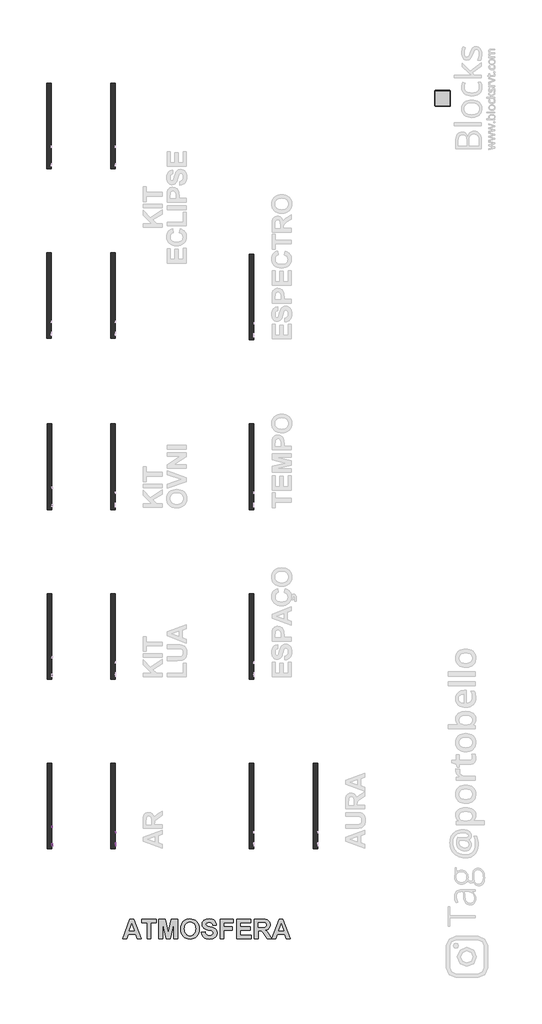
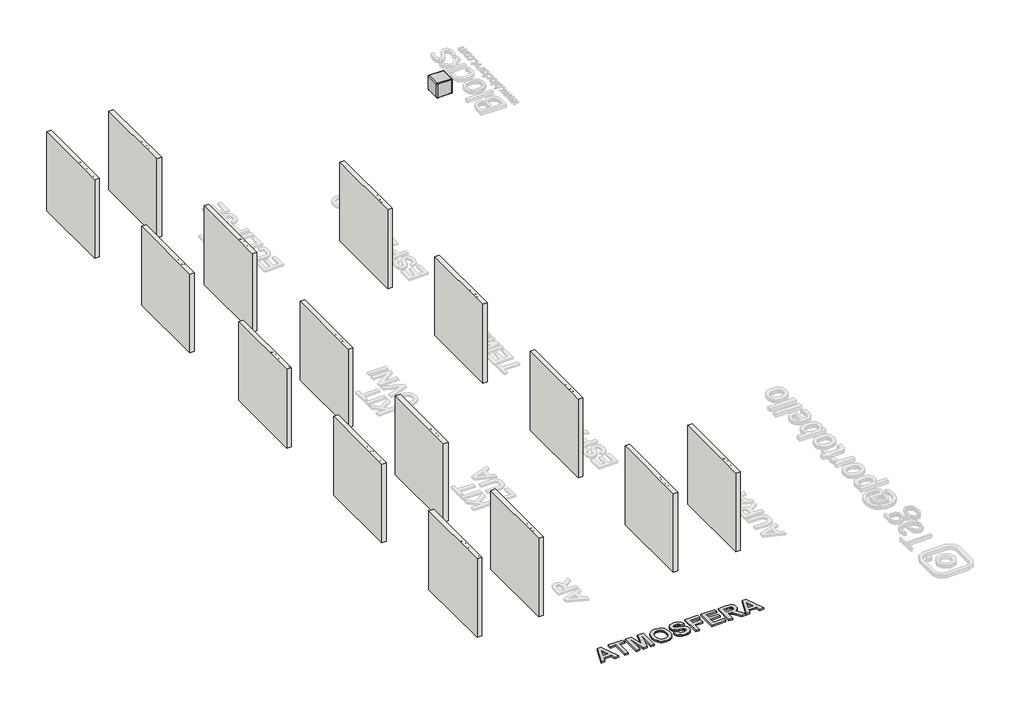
# One storey, part 1 of 9: 15 walls, 5 proxies, 1 furniture element.
"""IFC4 building model written with IfcOpenShell, lengths in millimetres."""

from ifc_helpers import new_model, si_unit, frame, origin, origin_with_axes, place, context, project, spatial, polyline, outline, extrude, transform, mapped, element, save
from components import branco_22256ad2

model = new_model("IFC4")

# Units and contexts
model_context = context("Model", 3, world=origin())
ifc_project = project(units=[si_unit("LENGTHUNIT", "METRE", prefix="MILLI")], contexts=[model_context])

# Site, building, storey
site = spatial("IfcSite", under=ifc_project)
building = spatial("IfcBuilding", under=site)
storey = spatial("IfcBuildingStorey", under=building, Name="PORTOBELLO - SHOWROOM", Elevation=0.0)

# Proxies
placement = place(None, origin())
element("IfcBuildingElementProxy", 1, Name="10mm Arial", ObjectType="10mm Arial", at=placement, inside=storey, context=model_context, shape_type="SweptSolid", body=[
    extrude(outline(polyline([(-9719.4773417, 2587.7332486), (-9719.4773417, 2600.2902873), (-9678.6669657, 2600.2902873), (-9678.6669657, 2562.7417984), (-9698.8146363, 2550.8959981), (-9720.1150038, 2546.9228726), (-9734.2018186, 2548.5016995), (-9746.9336013, 2553.2381802), (-9757.5102086, 2560.9667677), (-9765.1314973, 2571.5219153), (-9769.7392193, 2584.1831873), (-9771.2751266, 2598.2301482), (-9769.7453507, 2612.3782766), (-9765.1560228, 2625.5392549), (-9757.6972153, 2636.5787805), (-9747.5590007, 2644.3625504), (-9735.2104284, 2648.9794694), (-9721.120548, 2650.5184424), (-9701.4756494, 2646.9499871), (-9687.7046001, 2637.0171732), (-9680.1139682, 2620.4011697), (-9691.6899883, 2617.1392827), (-9697.4166847, 2628.752091), (-9707.2023458, 2635.4475433), (-9721.3167517, 2637.9614036), (-9737.3931949, 2635.2513396), (-9748.3315529, 2628.1389544), (-9754.7940132, 2618.4636579), (-9758.7180879, 2598.745183), (-9753.9969356, 2576.8562043), (-9740.2626744, 2563.7596052), (-9721.120548, 2559.4799113), (-9703.9404588, 2562.7050102), (-9691.2240045, 2569.5844035), (-9691.2240045, 2587.7332486), (-9719.4773417, 2587.7332486)])), frame((121459.5859035, 0.0, 0.0), z_axis=(1.0, 0.0, 0.0), x_axis=(0.0, 1.0, 0.0)), (0.0, 0.0, 1.0), 20.0),
    extrude(outline(polyline([(-9659.8314076, 2548.4925024), (-9659.8314076, 2622.2651052), (-9648.8439986, 2622.2651052), (-9648.8439986, 2611.3512727), (-9641.0449003, 2621.4067139), (-9633.1967511, 2623.834735), (-9620.5906614, 2619.9597114), (-9624.7845161, 2608.7025223), (-9633.613684, 2611.2776963), (-9640.7138065, 2608.8006242), (-9645.2387551, 2601.9334936), (-9647.2743688, 2587.2672647), (-9647.2743688, 2548.4925024), (-9659.8314076, 2548.4925024)])), frame((121459.5859035, 0.0, 0.0), z_axis=(1.0, 0.0, 0.0), x_axis=(0.0, 1.0, 0.0)), (0.0, 0.0, 1.0), 20.0),
    extrude(outline(polyline([(-9565.6536168, 2557.9102815), (-9577.8305108, 2549.3999447), (-9591.2827291, 2546.9228726), (-9601.776563, 2548.4127947), (-9609.5174133, 2552.8825609), (-9614.2906822, 2559.6699837), (-9615.8817719, 2568.1128755), (-9613.4782762, 2578.0456894), (-9607.1629686, 2585.2561765), (-9598.3705889, 2589.3764548), (-9587.5058073, 2591.2649157), (-9565.7271932, 2595.5813978), (-9565.6536168, 2598.377301), (-9569.1117075, 2607.6479272), (-9582.9931215, 2611.2776963), (-9595.6973131, 2608.8619378), (-9601.7551033, 2600.2902873), (-9614.312142, 2601.8599172), (-9608.8797512, 2614.1226504), (-9597.9413932, 2621.308612), (-9581.3744407, 2623.834735), (-9566.1563889, 2621.6029176), (-9557.5602129, 2615.9988485), (-9553.7097147, 2607.476249), (-9553.096578, 2596.4888401), (-9553.096578, 2580.866118), (-9552.4589159, 2559.0507157), (-9549.9573183, 2548.4925024), (-9562.5143571, 2548.4925024), (-9565.6536168, 2557.9102815)]), holes=[polyline([(-9565.6536168, 2583.024359), (-9585.911652, 2579.1738608), (-9596.7151199, 2577.1382471), (-9601.6079505, 2573.8273092), (-9603.3247331, 2568.9957923), (-9599.5845995, 2562.2022381), (-9588.6094533, 2559.4799113), (-9575.9052617, 2562.484281), (-9567.713756, 2569.7560817), (-9565.7271932, 2579.4681664), (-9565.6536168, 2583.024359)])]), frame((121459.5859035, 0.0, 0.0), z_axis=(1.0, 0.0, 0.0), x_axis=(0.0, 1.0, 0.0)), (0.0, 0.0, 1.0), 20.0),
    extrude(outline(polyline([(-9535.8306497, 2520.2391652), (-9535.8306497, 2622.2651052), (-9523.2736109, 2622.2651052), (-9523.2736109, 2609.9533211), (-9514.5915959, 2620.3643815), (-9502.8684229, 2623.834735), (-9486.9513953, 2618.9786927), (-9476.5525976, 2605.2934825), (-9473.0454559, 2585.9428895), (-9477.0063187, 2565.5990152), (-9488.5087624, 2551.7421267), (-9504.3890019, 2546.9228726), (-9515.3150971, 2550.1479714), (-9523.2736109, 2558.302689), (-9523.2736109, 2520.2391652), (-9535.8306497, 2520.2391652)]), holes=[polyline([(-9523.2736109, 2584.7901926), (-9521.9155132, 2573.5330036), (-9517.8412202, 2565.6603289), (-9511.8294152, 2561.0250157), (-9504.658782, 2559.4799113), (-9497.3716528, 2561.080198), (-9491.2065637, 2565.8810581), (-9487.0035119, 2574.041907), (-9485.6024946, 2585.7221603), (-9486.9697894, 2596.9180357), (-9491.0716736, 2604.901075), (-9497.0742815, 2609.683541), (-9504.1437472, 2611.2776963), (-9511.240804, 2609.5823734), (-9517.4733382, 2604.4964048), (-9521.8235427, 2596.179206), (-9523.2736109, 2584.7901926)])]), frame((121459.5859035, 0.0, 0.0), z_axis=(1.0, 0.0, 0.0), x_axis=(0.0, 1.0, 0.0)), (0.0, 0.0, 1.0), 20.0),
    extrude(outline(polyline([(-9458.9187873, 2548.4925024), (-9458.9187873, 2648.9488126), (-9446.3617485, 2648.9488126), (-9446.3617485, 2612.0134603), (-9436.5699561, 2620.8794163), (-9424.509558, 2623.834735), (-9410.4074148, 2620.6096362), (-9401.8480271, 2611.6946292), (-9399.2728531, 2595.1889903), (-9399.2728531, 2548.4925024), (-9411.8298919, 2548.4925024), (-9411.8298919, 2593.8891406), (-9415.8275429, 2607.1328925), (-9427.1583083, 2611.2776963), (-9437.4467415, 2608.4817931), (-9444.313872, 2600.903424), (-9446.3617485, 2587.6841976), (-9446.3617485, 2548.4925024), (-9458.9187873, 2548.4925024)])), frame((121459.5859035, 0.0, 0.0), z_axis=(1.0, 0.0, 0.0), x_axis=(0.0, 1.0, 0.0)), (0.0, 0.0, 1.0), 20.0),
    extrude(outline(polyline([(121479.5859035, -9369.449886), (121479.5859035, -9382.0069248), (121459.5859035, -9382.0069248), (121459.5859035, -9369.449886), (121479.5859035, -9369.449886)])), frame((0.0, 0.0, 2636.3917738), z_axis=(0.0, 0.0, 1.0), x_axis=(1.0, 0.0, 0.0)), (0.0, 0.0, 1.0), 12.5570388),
    extrude(outline(polyline([(121479.5859035, -9369.449886), (121479.5859035, -9382.0069248), (121459.5859035, -9382.0069248), (121459.5859035, -9369.449886), (121479.5859035, -9369.449886)])), frame((0.0, 0.0, 2548.4925024), z_axis=(0.0, 0.0, 1.0), x_axis=(1.0, 0.0, 0.0)), (0.0, 0.0, 1.0), 73.7726028),
    extrude(outline(polyline([(-9323.9306205, 2558.9648766), (-9322.3609906, 2548.1246204), (-9331.7542443, 2546.9228726), (-9342.2756693, 2549.0075372), (-9347.5241191, 2554.4767162), (-9349.044698, 2568.7260122), (-9349.044698, 2609.7080664), (-9358.4624771, 2609.7080664), (-9358.4624771, 2622.2651052), (-9349.044698, 2622.2651052), (-9349.044698, 2640.1932211), (-9336.4876593, 2647.5753865), (-9336.4876593, 2622.2651052), (-9323.9306205, 2622.2651052), (-9323.9306205, 2609.7080664), (-9336.4876593, 2609.7080664), (-9336.4876593, 2569.0938942), (-9335.8254717, 2562.619171), (-9333.6794934, 2560.3260399), (-9329.3997995, 2559.4799113), (-9323.9306205, 2558.9648766)])), frame((121459.5859035, 0.0, 0.0), z_axis=(1.0, 0.0, 0.0), x_axis=(0.0, 1.0, 0.0)), (0.0, 0.0, 1.0), 20.0),
    extrude(outline(polyline([(-9259.7229496, 2570.4673203), (-9247.4111655, 2568.8976904), (-9251.8472092, 2559.6209328), (-9258.9258719, 2552.6863572), (-9268.4877381, 2548.3637437), (-9280.3733923, 2546.9228726), (-9295.1070662, 2549.4091417), (-9306.443963, 2556.8679492), (-9313.6728442, 2568.814917), (-9316.0824713, 2584.7656671), (-9313.6483187, 2601.2529119), (-9306.3458611, 2613.5830901), (-9295.1622485, 2621.2718238), (-9281.0846308, 2623.834735), (-9267.4454058, 2621.2779552), (-9256.5469017, 2613.6076156), (-9249.400794, 2601.3019628), (-9247.018758, 2584.8392435), (-9247.0923344, 2581.4547292), (-9303.5254325, 2581.4547292), (-9301.351863, 2572.0553442), (-9296.3026827, 2565.1452941), (-9289.0155535, 2560.896257), (-9280.1281376, 2559.4799113), (-9267.8163535, 2562.1041362), (-9259.7229496, 2570.4673203)]), holes=[polyline([(-9303.5254325, 2594.011768), (-9259.5757968, 2594.011768), (-9264.6035174, 2605.3915843), (-9271.9243691, 2609.8061683), (-9281.1336817, 2611.2776963), (-9296.5969883, 2606.5810695), (-9301.4622276, 2601.0904307), (-9303.5254325, 2594.011768)])]), frame((121459.5859035, 0.0, 0.0), z_axis=(1.0, 0.0, 0.0), x_axis=(0.0, 1.0, 0.0)), (0.0, 0.0, 1.0), 20.0),
])
element("IfcBuildingElementProxy", 2, Name="10mm Arial", ObjectType="10mm Arial", at=placement, inside=storey, context=model_context, shape_type="SweptSolid", body=[
    extrude(outline(polyline([(-9748.5890703, 2548.4925024), (-9775.9840162, 2648.9488126), (-9763.0345699, 2648.9488126), (-9747.1420677, 2582.9262572), (-9742.2369745, 2562.5455946), (-9736.9885247, 2580.5718124), (-9717.073846, 2648.9488126), (-9698.4099661, 2648.9488126), (-9683.939941, 2599.3828451), (-9673.1732612, 2562.5455946), (-9668.4153208, 2582.337646), (-9652.3756658, 2648.9488126), (-9639.4262196, 2648.9488126), (-9666.8456909, 2548.4925024), (-9680.261121, 2548.4925024), (-9704.345129, 2625.9929761), (-9707.7051179, 2636.8087067), (-9711.4820397, 2623.7856841), (-9733.4323321, 2548.4925024), (-9748.5890703, 2548.4925024)])), frame((123459.5859035, 0.0, 0.0), z_axis=(1.0, 0.0, 0.0), x_axis=(0.0, 1.0, 0.0)), (0.0, 0.0, 1.0), 20.0),
    extrude(outline(polyline([(-9628.4388106, 2548.4925024), (-9628.4388106, 2648.9488126), (-9615.8817719, 2648.9488126), (-9615.8817719, 2612.0134603), (-9606.0899794, 2620.8794163), (-9594.0295814, 2623.834735), (-9579.9274382, 2620.6096362), (-9571.3680505, 2611.6946292), (-9568.7928765, 2595.1889903), (-9568.7928765, 2548.4925024), (-9581.3499153, 2548.4925024), (-9581.3499153, 2593.8891406), (-9585.3475663, 2607.1328925), (-9596.6783317, 2611.2776963), (-9606.9667649, 2608.4817931), (-9613.8338954, 2600.903424), (-9615.8817719, 2587.6841976), (-9615.8817719, 2548.4925024), (-9628.4388106, 2548.4925024)])), frame((123459.5859035, 0.0, 0.0), z_axis=(1.0, 0.0, 0.0), x_axis=(0.0, 1.0, 0.0)), (0.0, 0.0, 1.0), 20.0),
    extrude(outline(polyline([(123479.5859035, -9538.9699094), (123479.5859035, -9551.5269482), (123459.5859035, -9551.5269482), (123459.5859035, -9538.9699094), (123479.5859035, -9538.9699094)])), frame((0.0, 0.0, 2636.3917738), z_axis=(0.0, 0.0, 1.0), x_axis=(1.0, 0.0, 0.0)), (0.0, 0.0, 1.0), 12.5570388),
    extrude(outline(polyline([(123479.5859035, -9538.9699094), (123479.5859035, -9551.5269482), (123459.5859035, -9551.5269482), (123459.5859035, -9538.9699094), (123479.5859035, -9538.9699094)])), frame((0.0, 0.0, 2548.4925024), z_axis=(0.0, 0.0, 1.0), x_axis=(1.0, 0.0, 0.0)), (0.0, 0.0, 1.0), 73.7726028),
    extrude(outline(polyline([(-9493.4506439, 2558.9648766), (-9491.881014, 2548.1246204), (-9501.2742676, 2546.9228726), (-9511.7956927, 2549.0075372), (-9517.0441425, 2554.4767162), (-9518.5647214, 2568.7260122), (-9518.5647214, 2609.7080664), (-9527.9825005, 2609.7080664), (-9527.9825005, 2622.2651052), (-9518.5647214, 2622.2651052), (-9518.5647214, 2640.1932211), (-9506.0076826, 2647.5753865), (-9506.0076826, 2622.2651052), (-9493.4506439, 2622.2651052), (-9493.4506439, 2609.7080664), (-9506.0076826, 2609.7080664), (-9506.0076826, 2569.0938942), (-9505.345495, 2562.619171), (-9503.1995167, 2560.3260399), (-9498.9198229, 2559.4799113), (-9493.4506439, 2558.9648766)])), frame((123459.5859035, 0.0, 0.0), z_axis=(1.0, 0.0, 0.0), x_axis=(0.0, 1.0, 0.0)), (0.0, 0.0, 1.0), 20.0),
    extrude(outline(polyline([(-9429.242973, 2570.4673203), (-9416.9311889, 2568.8976904), (-9421.3672326, 2559.6209328), (-9428.4458953, 2552.6863572), (-9438.0077615, 2548.3637437), (-9449.8934156, 2546.9228726), (-9464.6270895, 2549.4091417), (-9475.9639864, 2556.8679492), (-9483.1928676, 2568.814917), (-9485.6024946, 2584.7656671), (-9483.1683421, 2601.2529119), (-9475.8658845, 2613.5830901), (-9464.6822718, 2621.2718238), (-9450.6046542, 2623.834735), (-9436.9654292, 2621.2779552), (-9426.0669251, 2613.6076156), (-9418.9208173, 2601.3019628), (-9416.5387814, 2584.8392435), (-9416.6123578, 2581.4547292), (-9473.0454559, 2581.4547292), (-9470.8718864, 2572.0553442), (-9465.822706, 2565.1452941), (-9458.5355768, 2560.896257), (-9449.648161, 2559.4799113), (-9437.3363769, 2562.1041362), (-9429.242973, 2570.4673203)]), holes=[polyline([(-9473.0454559, 2594.011768), (-9429.0958202, 2594.011768), (-9434.1235408, 2605.3915843), (-9441.4443925, 2609.8061683), (-9450.6537051, 2611.2776963), (-9466.1170116, 2606.5810695), (-9470.982251, 2601.0904307), (-9473.0454559, 2594.011768)])]), frame((123459.5859035, 0.0, 0.0), z_axis=(1.0, 0.0, 0.0), x_axis=(0.0, 1.0, 0.0)), (0.0, 0.0, 1.0), 20.0),
])
element("IfcBuildingElementProxy", 3, Name="10mm Arial Narrow", ObjectType="10mm Arial Narrow", at=placement, inside=storey, context=model_context, shape_type="SweptSolid", body=[
    extrude(outline(polyline([(-9184.431178, 2548.4925024), (-9184.431178, 2649.2111062), (-9153.1342933, 2649.2111062), (-9136.8385918, 2647.3327854), (-9125.3656057, 2637.8523423), (-9121.0759272, 2620.8332334), (-9122.8622356, 2608.7574079), (-9128.2211608, 2599.1310141), (-9137.9649496, 2592.8297557), (-9152.9058489, 2590.7293363), (-9174.6842163, 2590.7293363), (-9174.6842163, 2548.4925024), (-9184.431178, 2548.4925024)]), holes=[polyline([(-9174.6842163, 2602.1007915), (-9151.7128614, 2602.1007915), (-9135.848666, 2606.6316057), (-9130.8228889, 2620.3001965), (-9133.2977034, 2630.4659729), (-9139.2753322, 2636.2659227), (-9151.9413058, 2637.8396509), (-9174.6842163, 2637.8396509), (-9174.6842163, 2602.1007915)])]), frame((121459.5859035, 0.0, 0.0), z_axis=(1.0, 0.0, 0.0), x_axis=(0.0, 1.0, 0.0)), (0.0, 0.0, 1.0), 20.0),
    extrude(outline(polyline([(-9112.9534592, 2585.0436086), (-9110.9989903, 2601.6343842), (-9105.1355837, 2613.586469), (-9096.277017, 2620.8110236), (-9085.3370678, 2623.2192084), (-9074.5240322, 2620.8110236), (-9065.6400828, 2613.586469), (-9059.7005281, 2601.8247545), (-9057.7206765, 2585.80509), (-9059.6656268, 2568.6432034), (-9065.5004779, 2556.5007483), (-9074.3495261, 2549.2761937), (-9085.3370678, 2546.8680088), (-9096.197696, 2549.2825394), (-9105.0721269, 2556.526131), (-9110.9831261, 2568.4845615), (-9112.9534592, 2585.0436086)]), holes=[polyline([(-9103.2064975, 2585.0689913), (-9101.9024607, 2572.5172399), (-9097.9903501, 2563.6459819), (-9092.1491533, 2558.3727233), (-9085.057858, 2556.6149705), (-9078.3377848, 2558.3885875), (-9072.6457115, 2563.7094386), (-9068.7621565, 2572.5965609), (-9067.4676381, 2585.0689913), (-9068.771675, 2597.5826687), (-9072.6837856, 2606.4412354), (-9078.5249823, 2611.7144939), (-9085.6162777, 2613.4722468), (-9092.3839434, 2611.7049754), (-9098.0664982, 2606.4031613), (-9101.9214977, 2597.5350761), (-9103.2064975, 2585.0689913)])]), frame((121459.5859035, 0.0, 0.0), z_axis=(1.0, 0.0, 0.0), x_axis=(0.0, 1.0, 0.0)), (0.0, 0.0, 1.0), 20.0),
    extrude(outline(polyline([(-8986.2429577, 2556.6149705), (-8984.6184641, 2546.8680088), (-8991.9794507, 2546.8680088), (-9000.2542151, 2548.9874653), (-9004.5692762, 2554.7874152), (-9005.736881, 2569.4332403), (-9005.736881, 2611.8477532), (-9013.859349, 2611.8477532), (-9013.859349, 2615.0967404), (-9015.4838426, 2610.2232596), (-9023.047891, 2611.8477532), (-9029.1270507, 2609.525235), (-9032.9979144, 2603.0399519), (-9034.9777659, 2587.6326453), (-9034.9777659, 2548.4925024), (-9044.7247276, 2548.4925024), (-9044.7247276, 2621.5947148), (-9034.9777659, 2621.5947148), (-9034.9777659, 2611.8985186), (-9028.7336186, 2620.9855297), (-9022.3371751, 2623.2192084), (-9013.859349, 2621.5947148), (-9005.736881, 2621.5947148), (-9005.736881, 2637.8396509), (-8995.9899193, 2645.962119), (-8995.9899193, 2621.5947148), (-8986.2429577, 2621.5947148), (-8986.2429577, 2611.8477532), (-8995.9899193, 2611.8477532), (-8995.9899193, 2567.1995616), (-8995.1269071, 2559.2040072), (-8990.5072534, 2556.6149705), (-8986.2429577, 2556.6149705)])), frame((121459.5859035, 0.0, 0.0), z_axis=(1.0, 0.0, 0.0), x_axis=(0.0, 1.0, 0.0)), (0.0, 0.0, 1.0), 20.0),
    extrude(outline(polyline([(-8979.7449832, 2585.0436086), (-8977.7905144, 2601.6343842), (-8971.9271078, 2613.586469), (-8963.068541, 2620.8110236), (-8952.1285919, 2623.2192084), (-8941.3155563, 2620.8110236), (-8932.4316069, 2613.586469), (-8926.4920521, 2601.8247545), (-8924.5122005, 2585.80509), (-8926.4571509, 2568.6432034), (-8932.292002, 2556.5007483), (-8941.1410502, 2549.2761937), (-8952.1285919, 2546.8680088), (-8962.9892201, 2549.2825394), (-8971.863651, 2556.526131), (-8977.7746502, 2568.4845615), (-8979.7449832, 2585.0436086)]), holes=[polyline([(-8969.9980216, 2585.0689913), (-8968.6939847, 2572.5172399), (-8964.7818741, 2563.6459819), (-8958.9406774, 2558.3727233), (-8951.8493821, 2556.6149705), (-8945.1293089, 2558.3885875), (-8939.4372356, 2563.7094386), (-8935.5536805, 2572.5965609), (-8934.2591622, 2585.0689913), (-8935.5631991, 2597.5826687), (-8939.4753096, 2606.4412354), (-8945.3165064, 2611.7144939), (-8952.4078017, 2613.4722468), (-8959.1754675, 2611.7049754), (-8964.8580223, 2606.4031613), (-8968.7130218, 2597.5350761), (-8969.9980216, 2585.0689913)])]), frame((121459.5859035, 0.0, 0.0), z_axis=(1.0, 0.0, 0.0), x_axis=(0.0, 1.0, 0.0)), (0.0, 0.0, 1.0), 20.0),
    extrude(outline(polyline([(-8901.76929, 2548.4925024), (-8911.5162517, 2548.4925024), (-8911.5162517, 2649.2111062), (-8901.76929, 2649.2111062), (-8901.76929, 2613.802222), (-8894.3702293, 2620.8839989), (-8885.168996, 2623.2192084), (-8872.2872693, 2619.0183695), (-8863.0098878, 2606.2889391), (-8859.5324562, 2585.6020283), (-8861.4647152, 2569.1476848), (-8867.2614922, 2556.9449457), (-8875.6346145, 2549.387243), (-8885.2959095, 2546.8680088), (-8894.6367478, 2549.4824282), (-8901.76929, 2557.2495383), (-8901.76929, 2548.4925024)]), holes=[polyline([(-8901.76929, 2585.6020283), (-8899.6879076, 2568.3544751), (-8893.7991182, 2559.6228219), (-8885.3466749, 2556.6149705), (-8879.4039473, 2558.4044517), (-8874.16559, 2563.7728954), (-8869.2794178, 2585.1959049), (-8873.987911, 2606.6316057), (-8879.232614, 2611.7620865), (-8885.5497366, 2613.4722468), (-8891.5273655, 2611.6827655), (-8896.8196611, 2606.3143218), (-8901.76929, 2585.6020283)])]), frame((121459.5859035, 0.0, 0.0), z_axis=(1.0, 0.0, 0.0), x_axis=(0.0, 1.0, 0.0)), (0.0, 0.0, 1.0), 20.0),
    extrude(outline(polyline([(-8807.5486607, 2571.2354129), (-8797.801699, 2569.6109193), (-8801.5012294, 2559.7243528), (-8807.3202163, 2552.6045019), (-8815.0238696, 2548.3021321), (-8824.3773992, 2546.8680088), (-8835.9709532, 2549.2825394), (-8845.1150754, 2556.526131), (-8851.0546302, 2568.3322652), (-8853.0344818, 2584.4344235), (-8851.0451116, 2601.1013472), (-8845.0770013, 2613.2818764), (-8836.0629655, 2620.7348754), (-8824.9358189, 2623.2192084), (-8814.2528697, 2620.8205421), (-8805.5053523, 2613.6245431), (-8799.6705013, 2601.8850385), (-8797.7255509, 2585.8558554), (-8797.801699, 2582.6068682), (-8843.2875201, 2582.6068682), (-8837.2845086, 2563.1637103), (-8831.3544723, 2558.2521554), (-8824.2504856, 2556.6149705), (-8814.0720178, 2560.2700811), (-8807.5486607, 2571.2354129)]), holes=[polyline([(-8842.6275696, 2592.3538299), (-8807.5486607, 2592.3538299), (-8811.8129564, 2606.6189144), (-8817.638289, 2611.7589137), (-8824.8596707, 2613.4722468), (-8837.0687555, 2607.7611364), (-8842.6275696, 2592.3538299)])]), frame((121459.5859035, 0.0, 0.0), z_axis=(1.0, 0.0, 0.0), x_axis=(0.0, 1.0, 0.0)), (0.0, 0.0, 1.0), 20.0),
    extrude(outline(polyline([(121479.5859035, -8775.0587885), (121479.5859035, -8784.8057502), (121459.5859035, -8784.8057502), (121459.5859035, -8775.0587885), (121479.5859035, -8775.0587885)])), frame((0.0, 0.0, 2548.4925024), z_axis=(0.0, 0.0, 1.0), x_axis=(1.0, 0.0, 0.0)), (0.0, 0.0, 1.0), 100.7186038),
    extrude(outline(polyline([(121479.5859035, -8749.0668908), (121479.5859035, -8758.8138524), (121459.5859035, -8758.8138524), (121459.5859035, -8749.0668908), (121479.5859035, -8749.0668908)])), frame((0.0, 0.0, 2548.4925024), z_axis=(0.0, 0.0, 1.0), x_axis=(1.0, 0.0, 0.0)), (0.0, 0.0, 1.0), 100.7186038),
    extrude(outline(polyline([(-8737.6954355, 2585.0436086), (-8735.7409666, 2601.6343842), (-8729.87756, 2613.586469), (-8721.0189933, 2620.8110236), (-8710.0790442, 2623.2192084), (-8699.2660086, 2620.8110236), (-8690.3820592, 2613.586469), (-8684.4425044, 2601.8247545), (-8682.4626528, 2585.80509), (-8684.4076032, 2568.6432034), (-8690.2424542, 2556.5007483), (-8699.0915024, 2549.2761937), (-8710.0790442, 2546.8680088), (-8720.9396723, 2549.2825394), (-8729.8141032, 2556.526131), (-8735.7251024, 2568.4845615), (-8737.6954355, 2585.0436086)]), holes=[polyline([(-8727.9484739, 2585.0689913), (-8726.644437, 2572.5172399), (-8722.7323264, 2563.6459819), (-8716.8911297, 2558.3727233), (-8709.7998343, 2556.6149705), (-8703.0797612, 2558.3885875), (-8697.3876878, 2563.7094386), (-8693.5041328, 2572.5965609), (-8692.2096145, 2585.0689913), (-8693.5136513, 2597.5826687), (-8697.4257619, 2606.4412354), (-8703.2669587, 2611.7144939), (-8710.358254, 2613.4722468), (-8717.1259198, 2611.7049754), (-8722.8084746, 2606.4031613), (-8726.663474, 2597.5350761), (-8727.9484739, 2585.0689913)])]), frame((121459.5859035, 0.0, 0.0), z_axis=(1.0, 0.0, 0.0), x_axis=(0.0, 1.0, 0.0)), (0.0, 0.0, 1.0), 20.0),
])
element("IfcBuildingElementProxy", 4, Name="10mm Arial Narrow", ObjectType="10mm Arial Narrow", at=placement, inside=storey, context=model_context, shape_type="SweptSolid", body=[
    extrude(outline(polyline([(-9364.431178, 2548.4925024), (-9364.431178, 2649.2111062), (-9333.1342933, 2649.2111062), (-9316.8385918, 2647.3327854), (-9305.3656057, 2637.8523423), (-9301.0759272, 2620.8332334), (-9302.8622356, 2608.7574079), (-9308.2211608, 2599.1310141), (-9317.9649496, 2592.8297557), (-9332.9058489, 2590.7293363), (-9354.6842163, 2590.7293363), (-9354.6842163, 2548.4925024), (-9364.431178, 2548.4925024)]), holes=[polyline([(-9354.6842163, 2602.1007915), (-9331.7128614, 2602.1007915), (-9315.848666, 2606.6316057), (-9310.8228889, 2620.3001965), (-9313.2977034, 2630.4659729), (-9319.2753322, 2636.2659227), (-9331.9413058, 2637.8396509), (-9354.6842163, 2637.8396509), (-9354.6842163, 2602.1007915)])]), frame((123459.5859035, 0.0, 0.0), z_axis=(1.0, 0.0, 0.0), x_axis=(0.0, 1.0, 0.0)), (0.0, 0.0, 1.0), 20.0),
    extrude(outline(polyline([(-9292.9534592, 2585.0436086), (-9290.9989903, 2601.6343842), (-9285.1355837, 2613.586469), (-9276.277017, 2620.8110236), (-9265.3370678, 2623.2192084), (-9254.5240322, 2620.8110236), (-9245.6400828, 2613.586469), (-9239.7005281, 2601.8247545), (-9237.7206765, 2585.80509), (-9239.6656268, 2568.6432034), (-9245.5004779, 2556.5007483), (-9254.3495261, 2549.2761937), (-9265.3370678, 2546.8680088), (-9276.197696, 2549.2825394), (-9285.0721269, 2556.526131), (-9290.9831261, 2568.4845615), (-9292.9534592, 2585.0436086)]), holes=[polyline([(-9283.2064975, 2585.0689913), (-9281.9024607, 2572.5172399), (-9277.9903501, 2563.6459819), (-9272.1491533, 2558.3727233), (-9265.057858, 2556.6149705), (-9258.3377848, 2558.3885875), (-9252.6457115, 2563.7094386), (-9248.7621565, 2572.5965609), (-9247.4676381, 2585.0689913), (-9248.771675, 2597.5826687), (-9252.6837856, 2606.4412354), (-9258.5249823, 2611.7144939), (-9265.6162777, 2613.4722468), (-9272.3839434, 2611.7049754), (-9278.0664982, 2606.4031613), (-9281.9214977, 2597.5350761), (-9283.2064975, 2585.0689913)])]), frame((123459.5859035, 0.0, 0.0), z_axis=(1.0, 0.0, 0.0), x_axis=(0.0, 1.0, 0.0)), (0.0, 0.0, 1.0), 20.0),
    extrude(outline(polyline([(-9166.2429577, 2556.6149705), (-9164.6184641, 2546.8680088), (-9171.9794507, 2546.8680088), (-9180.2542151, 2548.9874653), (-9184.5692762, 2554.7874152), (-9185.736881, 2569.4332403), (-9185.736881, 2611.8477532), (-9193.859349, 2611.8477532), (-9193.859349, 2615.0967404), (-9195.4838426, 2610.2232596), (-9203.047891, 2611.8477532), (-9209.1270507, 2609.525235), (-9212.9979144, 2603.0399519), (-9214.9777659, 2587.6326453), (-9214.9777659, 2548.4925024), (-9224.7247276, 2548.4925024), (-9224.7247276, 2621.5947148), (-9214.9777659, 2621.5947148), (-9214.9777659, 2611.8985186), (-9208.7336186, 2620.9855297), (-9202.3371751, 2623.2192084), (-9193.859349, 2621.5947148), (-9185.736881, 2621.5947148), (-9185.736881, 2637.8396509), (-9175.9899193, 2645.962119), (-9175.9899193, 2621.5947148), (-9166.2429577, 2621.5947148), (-9166.2429577, 2611.8477532), (-9175.9899193, 2611.8477532), (-9175.9899193, 2567.1995616), (-9175.1269071, 2559.2040072), (-9170.5072534, 2556.6149705), (-9166.2429577, 2556.6149705)])), frame((123459.5859035, 0.0, 0.0), z_axis=(1.0, 0.0, 0.0), x_axis=(0.0, 1.0, 0.0)), (0.0, 0.0, 1.0), 20.0),
    extrude(outline(polyline([(-9159.7449832, 2585.0436086), (-9157.7905144, 2601.6343842), (-9151.9271078, 2613.586469), (-9143.068541, 2620.8110236), (-9132.1285919, 2623.2192084), (-9121.3155563, 2620.8110236), (-9112.4316069, 2613.586469), (-9106.4920521, 2601.8247545), (-9104.5122005, 2585.80509), (-9106.4571509, 2568.6432034), (-9112.292002, 2556.5007483), (-9121.1410502, 2549.2761937), (-9132.1285919, 2546.8680088), (-9142.9892201, 2549.2825394), (-9151.863651, 2556.526131), (-9157.7746502, 2568.4845615), (-9159.7449832, 2585.0436086)]), holes=[polyline([(-9149.9980216, 2585.0689913), (-9148.6939847, 2572.5172399), (-9144.7818741, 2563.6459819), (-9138.9406774, 2558.3727233), (-9131.8493821, 2556.6149705), (-9125.1293089, 2558.3885875), (-9119.4372356, 2563.7094386), (-9115.5536805, 2572.5965609), (-9114.2591622, 2585.0689913), (-9115.5631991, 2597.5826687), (-9119.4753096, 2606.4412354), (-9125.3165064, 2611.7144939), (-9132.4078017, 2613.4722468), (-9139.1754675, 2611.7049754), (-9144.8580223, 2606.4031613), (-9148.7130218, 2597.5350761), (-9149.9980216, 2585.0689913)])]), frame((123459.5859035, 0.0, 0.0), z_axis=(1.0, 0.0, 0.0), x_axis=(0.0, 1.0, 0.0)), (0.0, 0.0, 1.0), 20.0),
    extrude(outline(polyline([(-9081.76929, 2548.4925024), (-9091.5162517, 2548.4925024), (-9091.5162517, 2649.2111062), (-9081.76929, 2649.2111062), (-9081.76929, 2613.802222), (-9074.3702293, 2620.8839989), (-9065.168996, 2623.2192084), (-9052.2872693, 2619.0183695), (-9043.0098878, 2606.2889391), (-9039.5324562, 2585.6020283), (-9041.4647152, 2569.1476848), (-9047.2614922, 2556.9449457), (-9055.6346145, 2549.387243), (-9065.2959095, 2546.8680088), (-9074.6367478, 2549.4824282), (-9081.76929, 2557.2495383), (-9081.76929, 2548.4925024)]), holes=[polyline([(-9081.76929, 2585.6020283), (-9079.6879076, 2568.3544751), (-9073.7991182, 2559.6228219), (-9065.3466749, 2556.6149705), (-9059.4039473, 2558.4044517), (-9054.16559, 2563.7728954), (-9049.2794178, 2585.1959049), (-9053.987911, 2606.6316057), (-9059.232614, 2611.7620865), (-9065.5497366, 2613.4722468), (-9071.5273655, 2611.6827655), (-9076.8196611, 2606.3143218), (-9081.76929, 2585.6020283)])]), frame((123459.5859035, 0.0, 0.0), z_axis=(1.0, 0.0, 0.0), x_axis=(0.0, 1.0, 0.0)), (0.0, 0.0, 1.0), 20.0),
    extrude(outline(polyline([(-8987.5486607, 2571.2354129), (-8977.801699, 2569.6109193), (-8981.5012294, 2559.7243528), (-8987.3202163, 2552.6045019), (-8995.0238696, 2548.3021321), (-9004.3773992, 2546.8680088), (-9015.9709532, 2549.2825394), (-9025.1150754, 2556.526131), (-9031.0546302, 2568.3322652), (-9033.0344818, 2584.4344235), (-9031.0451116, 2601.1013472), (-9025.0770013, 2613.2818764), (-9016.0629655, 2620.7348754), (-9004.9358189, 2623.2192084), (-8994.2528697, 2620.8205421), (-8985.5053523, 2613.6245431), (-8979.6705013, 2601.8850385), (-8977.7255509, 2585.8558554), (-8977.801699, 2582.6068682), (-9023.2875201, 2582.6068682), (-9017.2845086, 2563.1637103), (-9011.3544723, 2558.2521554), (-9004.2504856, 2556.6149705), (-8994.0720178, 2560.2700811), (-8987.5486607, 2571.2354129)]), holes=[polyline([(-9022.6275696, 2592.3538299), (-8987.5486607, 2592.3538299), (-8991.8129564, 2606.6189144), (-8997.638289, 2611.7589137), (-9004.8596707, 2613.4722468), (-9017.0687555, 2607.7611364), (-9022.6275696, 2592.3538299)])]), frame((123459.5859035, 0.0, 0.0), z_axis=(1.0, 0.0, 0.0), x_axis=(0.0, 1.0, 0.0)), (0.0, 0.0, 1.0), 20.0),
    extrude(outline(polyline([(123479.5859035, -8955.0587885), (123479.5859035, -8964.8057502), (123459.5859035, -8964.8057502), (123459.5859035, -8955.0587885), (123479.5859035, -8955.0587885)])), frame((0.0, 0.0, 2548.4925024), z_axis=(0.0, 0.0, 1.0), x_axis=(1.0, 0.0, 0.0)), (0.0, 0.0, 1.0), 100.7186038),
    extrude(outline(polyline([(123479.5859035, -8929.0668908), (123479.5859035, -8938.8138524), (123459.5859035, -8938.8138524), (123459.5859035, -8929.0668908), (123479.5859035, -8929.0668908)])), frame((0.0, 0.0, 2548.4925024), z_axis=(0.0, 0.0, 1.0), x_axis=(1.0, 0.0, 0.0)), (0.0, 0.0, 1.0), 100.7186038),
    extrude(outline(polyline([(-8917.6954355, 2585.0436086), (-8915.7409666, 2601.6343842), (-8909.87756, 2613.586469), (-8901.0189933, 2620.8110236), (-8890.0790442, 2623.2192084), (-8879.2660086, 2620.8110236), (-8870.3820592, 2613.586469), (-8864.4425044, 2601.8247545), (-8862.4626528, 2585.80509), (-8864.4076032, 2568.6432034), (-8870.2424542, 2556.5007483), (-8879.0915024, 2549.2761937), (-8890.0790442, 2546.8680088), (-8900.9396723, 2549.2825394), (-8909.8141032, 2556.526131), (-8915.7251024, 2568.4845615), (-8917.6954355, 2585.0436086)]), holes=[polyline([(-8907.9484739, 2585.0689913), (-8906.644437, 2572.5172399), (-8902.7323264, 2563.6459819), (-8896.8911297, 2558.3727233), (-8889.7998343, 2556.6149705), (-8883.0797612, 2558.3885875), (-8877.3876878, 2563.7094386), (-8873.5041328, 2572.5965609), (-8872.2096145, 2585.0689913), (-8873.5136513, 2597.5826687), (-8877.4257619, 2606.4412354), (-8883.2669587, 2611.7144939), (-8890.358254, 2613.4722468), (-8897.1259198, 2611.7049754), (-8902.8084746, 2606.4031613), (-8906.663474, 2597.5350761), (-8907.9484739, 2585.0689913)])]), frame((123459.5859035, 0.0, 0.0), z_axis=(1.0, 0.0, 0.0), x_axis=(0.0, 1.0, 0.0)), (0.0, 0.0, 1.0), 20.0),
])
element("IfcBuildingElementProxy", 5, Name="600mm Arial", ObjectType="600mm Arial", at=placement, inside=storey, context=model_context, shape_type="SweptSolid", body=[
    extrude(outline(polyline([(124268.8405142, -12688.7002712), (124146.3182916, -12688.7002712), (124098.3418079, -12552.6656845), (123867.1133755, -12552.6656845), (123819.744189, -12688.7002712), (123695.551899, -12688.7002712), (123919.0372913, -12076.5446312), (124043.2295814, -12076.5446312), (124268.8405142, -12688.7002712)]), holes=[polyline([(124060.9930263, -12445.7813664), (123982.1962066, -12222.2959741), (123904.4621571, -12445.7813664), (124060.9930263, -12445.7813664)])]), origin_with_axes(), (0.0, 0.0, 1.0), 50.0),
    extrude(outline(polyline([(124463.175638, -12688.7002712), (124463.175638, -12183.4289493), (124288.2740266, -12183.4289493), (124288.2740266, -12076.5446312), (124754.6783237, -12076.5446312), (124754.6783237, -12183.4289493), (124579.7767123, -12183.4289493), (124579.7767123, -12688.7002712), (124463.175638, -12688.7002712)])), origin_with_axes(), (0.0, 0.0, 1.0), 50.0),
    extrude(outline(polyline([(124832.4123732, -12688.7002712), (124832.4123732, -12076.5446312), (125032.2131724, -12076.5446312), (125128.773437, -12494.0614988), (125225.3337016, -12076.5446312), (125425.1345008, -12076.5446312), (125425.1345008, -12688.7002712), (125308.5334265, -12688.7002712), (125303.6750484, -12206.8098939), (125197.094379, -12688.7002712), (125060.6043194, -12688.7002712), (124953.8718256, -12206.8098939), (124949.0134475, -12688.7002712), (124832.4123732, -12688.7002712)])), origin_with_axes(), (0.0, 0.0, 1.0), 50.0),
    extrude(outline(polyline([(125522.3020627, -12386.4180591), (125524.0195753, -12341.610908), (125529.172113, -12300.5614087), (125537.7596758, -12263.2695612), (125549.7822638, -12229.7353655), (125574.0172202, -12185.4975556), (125605.7295241, -12146.0042555), (125642.8695472, -12113.6846544), (125683.3876614, -12090.9679412), (125712.556908, -12080.4066622), (125743.8896511, -12072.8628916), (125777.3858907, -12068.3366292), (125813.0456268, -12066.827875), (125876.1476079, -12072.0610694), (125932.6072753, -12087.7606525), (125982.4246288, -12113.9266244), (126025.5996685, -12150.558985), (126044.2811761, -12172.5130183), (126060.4718159, -12196.509563), (126085.3804927, -12250.6301869), (126100.3256988, -12312.9208569), (126105.3074341, -12383.3815728), (126100.3636548, -12453.3630932), (126085.532317, -12515.2789468), (126060.8134207, -12569.1291337), (126044.746138, -12593.0296022), (126026.2069657, -12614.9136539), (125983.3165966, -12651.4463798), (125933.7459576, -12677.541184), (125877.4950487, -12693.1980665), (125814.56387, -12698.4170274), (125750.9684598, -12693.2217891), (125694.2431, -12677.6360742), (125644.3877904, -12651.6598827), (125601.4025311, -12615.2932147), (125566.7960762, -12569.8170877), (125542.0771798, -12516.5125194), (125527.245842, -12455.3795099), (125522.3020627, -12386.4180591)]), holes=[polyline([(125638.903137, -12382.1669783), (125642.0013019, -12430.5894459), (125651.2957967, -12472.7681385), (125666.7866214, -12508.7030562), (125688.473776, -12538.3941989), (125714.9339075, -12561.6422972), (125744.7436629, -12578.2480817), (125777.9030423, -12588.2115524), (125814.4120457, -12591.5327093), (125850.8830929, -12588.2352749), (125883.9286041, -12578.3429719), (125913.5485792, -12561.8558001), (125939.7430181, -12538.7737597), (125961.1644801, -12509.0968505), (125976.4655244, -12472.8250726), (125985.646151, -12429.9584261), (125988.7063598, -12380.4969108), (125985.7268076, -12331.7233494), (125976.7881511, -12289.5541458), (125961.8903901, -12253.9892999), (125941.0335248, -12225.0288117), (125915.2423692, -12202.5777911), (125885.5417375, -12186.5413478), (125851.9316296, -12176.9194818), (125814.4120457, -12173.7121931), (125776.8545056, -12176.9574379), (125743.1305296, -12186.6931721), (125713.2401174, -12202.9193958), (125687.1832693, -12225.636109), (125666.0607114, -12254.8907568), (125650.9731701, -12290.7307843), (125641.9206453, -12333.1561914), (125638.903137, -12382.1669783)])]), origin_with_axes(), (0.0, 0.0, 1.0), 50.0),
    extrude(outline(polyline([(126173.3247274, -12484.6483912), (126289.9258017, -12474.931635), (126296.9856324, -12503.0001553), (126306.930125, -12527.0832874), (126319.7592797, -12547.1810311), (126335.4730964, -12563.2933866), (126354.1190201, -12575.6480903), (126375.744496, -12584.4728786), (126400.3495242, -12589.7677516), (126427.9341045, -12591.5327093), (126456.9230597, -12589.9717655), (126482.097429, -12585.2889343), (126503.4572124, -12577.4842156), (126521.0024099, -12566.5576094), (126534.6855763, -12553.5434189), (126544.4592666, -12539.4759471), (126550.3234808, -12524.3551942), (126552.2782188, -12508.1811601), (126549.0329741, -12488.3491089), (126539.2972399, -12471.6674122), (126521.4389048, -12457.5667289), (126493.8258574, -12445.4777178), (126392.7108633, -12419.5157599), (126345.7781718, -12406.8479185), (126306.3987399, -12392.6808121), (126274.5725678, -12377.0144406), (126250.2996554, -12359.8488039), (126225.1252861, -12333.2700597), (126207.1435937, -12303.9394997), (126196.3545783, -12271.8571241), (126192.7582398, -12237.0229327), (126194.4093292, -12214.097461), (126199.3625975, -12191.931111), (126207.6180447, -12170.5238825), (126219.1756707, -12149.8757756), (126233.8456952, -12130.812335), (126251.4383377, -12114.1591054), (126271.9535984, -12099.9160868), (126295.3914771, -12088.0832792), (126321.5716825, -12078.7840399), (126350.3139232, -12072.1417261), (126415.4845106, -12066.827875), (126469.3963761, -12070.1395429), (126516.2009659, -12080.0745466), (126555.8982799, -12096.632886), (126588.4883181, -12119.8145611), (126614.0754598, -12148.5188458), (126632.7640841, -12181.6450136), (126644.5541911, -12219.1930646), (126649.4457807, -12261.1629988), (126532.8447065, -12261.1629988), (126527.573556, -12239.4948223), (126519.9586177, -12221.1003576), (126509.9998915, -12205.9796047), (126497.6973774, -12194.1325635), (126482.5386684, -12185.1986515), (126464.0113574, -12178.8172857), (126416.8509295, -12173.7121931), (126367.2043783, -12179.1399124), (126346.9358322, -12185.9245615), (126329.7037724, -12195.4230702), (126314.4454287, -12211.7441841), (126309.3593141, -12232.7718518), (126313.9899557, -12252.6228811), (126327.8818806, -12269.3615119), (126343.8471563, -12279.0830126), (126368.2102144, -12288.9658266), (126442.129678, -12309.2153947), (126521.0213879, -12330.2810184), (126576.2664607, -12352.3335003), (126614.9816611, -12379.0356018), (126644.283754, -12414.0500845), (126655.0443024, -12434.7835926), (126662.7304084, -12457.8134434), (126667.3420719, -12483.1396371), (126668.8792931, -12510.7621735), (126667.0621459, -12536.4584389), (126661.610704, -12561.3196705), (126652.5249676, -12585.3458684), (126639.8049367, -12608.5370326), (126623.7590044, -12629.8493709), (126604.6955638, -12648.2390911), (126582.6146149, -12663.7061933), (126557.5161577, -12676.2506773), (126529.2720905, -12685.9484555), (126497.7543116, -12692.8754399), (126424.8976182, -12698.4170274), (126370.411667, -12695.0057248), (126322.6439417, -12684.771817), (126281.5944424, -12667.7153041), (126247.2631691, -12643.836186), (126219.4128962, -12613.4191333), (126197.8063983, -12576.7488166), (126182.4436754, -12533.8252359), (126173.3247274, -12484.6483912)])), origin_with_axes(), (0.0, 0.0, 1.0), 50.0),
    extrude(outline(polyline([(126766.046855, -12688.7002712), (126766.046855, -12076.5446312), (127183.8673712, -12076.5446312), (127183.8673712, -12183.4289493), (126882.6479293, -12183.4289493), (126882.6479293, -12319.463536), (127145.0003464, -12319.463536), (127145.0003464, -12426.3478541), (126882.6479293, -12426.3478541), (126882.6479293, -12688.7002712), (126766.046855, -12688.7002712)])), origin_with_axes(), (0.0, 0.0, 1.0), 50.0),
    extrude(outline(polyline([(127281.0349331, -12688.7002712), (127281.0349331, -12076.5446312), (127737.722474, -12076.5446312), (127737.722474, -12183.4289493), (127397.6360074, -12183.4289493), (127397.6360074, -12319.463536), (127718.2889617, -12319.463536), (127718.2889617, -12426.3478541), (127397.6360074, -12426.3478541), (127397.6360074, -12581.8159531), (127747.4392302, -12581.8159531), (127747.4392302, -12688.7002712), (127281.0349331, -12688.7002712)])), origin_with_axes(), (0.0, 0.0, 1.0), 50.0),
    extrude(outline(polyline([(127844.6067921, -12688.7002712), (127844.6067921, -12076.5446312), (128102.1008312, -12076.5446312), (128185.9837655, -12080.6818438), (128217.9617619, -12085.8533596), (128243.2974446, -12093.0934816), (128264.211244, -12102.9810401), (128282.9235909, -12116.0948654), (128299.4344852, -12132.4349574), (128313.7439269, -12152.001316), (128325.3015529, -12173.9494186), (128333.5570001, -12197.4347424), (128338.5102684, -12222.4572874), (128340.1613578, -12249.0170536), (128337.7748694, -12282.1242434), (128330.615404, -12312.2139249), (128318.6829617, -12339.2860982), (128301.9775425, -12363.3407631), (128280.5181244, -12383.7990896), (128254.3236855, -12400.0822475), (128223.3942257, -12412.1902366), (128187.7297451, -12420.1230571), (128221.5486114, -12444.4908598), (128248.9149442, -12471.1360271), (128277.2301791, -12509.7373593), (128313.8957512, -12569.9736565), (128388.7451388, -12688.7002712), (128252.5587278, -12688.7002712), (128163.8933276, -12548.8700766), (128121.0598926, -12495.1812031), (128094.2818789, -12465.8980882), (128074.9622348, -12451.4937563), (128054.5039083, -12442.4412315), (128027.3463338, -12437.6587656), (127987.9289459, -12436.0646103), (127961.2078664, -12436.0646103), (127961.2078664, -12688.7002712), (127844.6067921, -12688.7002712)]), holes=[polyline([(127961.2078664, -12329.1802922), (128057.3126581, -12329.1802922), (128133.1678817, -12327.4153345), (128173.9896445, -12322.1204615), (128194.7516197, -12312.5175735), (128210.4274803, -12297.828571), (128220.2770827, -12278.4519928), (128223.5602835, -12254.7863776), (128219.2332905, -12228.5777051), (128206.2523116, -12207.9485763), (128185.3764682, -12193.39242), (128157.364882, -12185.4026654), (128062.6265091, -12183.4289493), (127961.2078664, -12183.4289493), (127961.2078664, -12329.1802922)])]), origin_with_axes(), (0.0, 0.0, 1.0), 50.0),
    extrude(outline(polyline([(128971.7505102, -12688.7002712), (128849.2282876, -12688.7002712), (128801.2518039, -12552.6656845), (128570.0233714, -12552.6656845), (128522.654185, -12688.7002712), (128398.461895, -12688.7002712), (128621.9472873, -12076.5446312), (128746.1395774, -12076.5446312), (128971.7505102, -12688.7002712)]), holes=[polyline([(128763.9030223, -12445.7813664), (128685.1062026, -12222.2959741), (128607.372153, -12445.7813664), (128763.9030223, -12445.7813664)])]), origin_with_axes(), (0.0, 0.0, 1.0), 50.0),
])

# Furniture
branco_shape = branco_22256ad2(model_context)
element("IfcFurniture", 6, ObjectType="Blks_Mob_Blocks Revit_Cubo : Branco", at=placement, inside=storey, context=model_context, shape_type="MappedRepresentation", body=[
    mapped(branco_shape, transform((133779.5468687, 13813.8325032, 0.0), x_axis=(1.0, 0.0, 0.0), y_axis=(0.0, 1.0, 0.0), z_axis=(0.0, 0.0, 1.0))),
])

# Walls
element("IfcWall", 7, ObjectType="ATMOSFERA - AR - GRAPHITE - 30X30 - MATT - RET", at=placement, inside=storey, context=model_context, shape_type="SweptSolid", body=[
    extrude(outline(polyline([(121459.5859035, -7154.3936542), (121459.5859035, -9854.3936542), (121309.5859035, -9854.3936542), (121309.5859035, -7154.3936542), (121459.5859035, -7154.3936542)])), origin_with_axes(), (0.0, 0.0, 1.0), 2700.0),
])
element("IfcWall", 8, ObjectType="ATMOSFERA - AR - WHITE - 30X30 - MATT - RET", at=placement, inside=storey, context=model_context, shape_type="SweptSolid", body=[
    extrude(outline(polyline([(123459.5859035, -7154.3936542), (123459.5859035, -9854.3936542), (123309.5859035, -9854.3936542), (123309.5859035, -7154.3936542), (123459.5859035, -7154.3936542)])), origin_with_axes(), (0.0, 0.0, 1.0), 2700.0),
])
element("IfcWall", 9, ObjectType="ATMOSFERA - AURA - WHITE - 30X30 - MATT - RET - COMPOSIÇÃO 02", at=placement, inside=storey, context=model_context, shape_type="SweptSolid", body=[
    extrude(outline(polyline([(127826.5708693, -7154.3936542), (127826.5708693, -9854.3936542), (127676.5708693, -9854.3936542), (127676.5708693, -7154.3936542), (127826.5708693, -7154.3936542)])), origin_with_axes(), (0.0, 0.0, 1.0), 2700.0),
])
element("IfcWall", 10, ObjectType="ATMOSFERA - AURA - WHITE - 30X30 - MATT - RET - COMPOSIÇÃO 01", at=placement, inside=storey, context=model_context, shape_type="SweptSolid", body=[
    extrude(outline(polyline([(129846.5708693, -7154.3936542), (129846.5708693, -9854.3936542), (129696.5708693, -9854.3936542), (129696.5708693, -7154.3936542), (129846.5708693, -7154.3936542)])), origin_with_axes(), (0.0, 0.0, 1.0), 2700.0),
])
element("IfcWall", 11, ObjectType="ATMOSFERA - ESPAÇO - WHITE - 30X30 - MATT - RET", at=placement, inside=storey, context=model_context, shape_type="SweptSolid", body=[
    extrude(outline(polyline([(127826.5708693, -1804.3936542), (127826.5708693, -4504.3936542), (127676.5708693, -4504.3936542), (127676.5708693, -1804.3936542), (127826.5708693, -1804.3936542)])), origin_with_axes(), (0.0, 0.0, 1.0), 2700.0),
])
element("IfcWall", 12, ObjectType="ATMOSFERA - ESPECTRO - WHITE - 30X30 - MATT - RET", at=placement, inside=storey, context=model_context, shape_type="SweptSolid", body=[
    extrude(outline(polyline([(127826.5708693, 8895.6063458), (127826.5708693, 6195.6063458), (127676.5708693, 6195.6063458), (127676.5708693, 8895.6063458), (127826.5708693, 8895.6063458)])), origin_with_axes(), (0.0, 0.0, 1.0), 2700.0),
])
element("IfcWall", 13, ObjectType="ATMOSFERA - TEMPO - WHITE - 30X30 - MATT - RET", at=placement, inside=storey, context=model_context, shape_type="SweptSolid", body=[
    extrude(outline(polyline([(127826.5708693, 3545.6063458), (127826.5708693, 845.6063458), (127676.5708693, 845.6063458), (127676.5708693, 3545.6063458), (127826.5708693, 3545.6063458)])), origin_with_axes(), (0.0, 0.0, 1.0), 2700.0),
])
element("IfcWall", 14, ObjectType="ATMOSFERA - KIT ECLIPSE - WHITE - 58X58 - COMPOSIÇÃO 01", at=placement, inside=storey, context=model_context, shape_type="SweptSolid", body=[
    extrude(outline(polyline([(123459.5859035, 8945.6063458), (123459.5859035, 6245.6063458), (123309.5859035, 6245.6063458), (123309.5859035, 8945.6063458), (123459.5859035, 8945.6063458)])), origin_with_axes(), (0.0, 0.0, 1.0), 2700.0),
])
element("IfcWall", 15, ObjectType="ATMOSFERA - KIT ECLIPSE - WHITE - 58X58 - COMPOSIÇÃO 02", at=placement, inside=storey, context=model_context, shape_type="SweptSolid", body=[
    extrude(outline(polyline([(121439.5859035, 8945.6063458), (121439.5859035, 6245.6063458), (121289.5859035, 6245.6063458), (121289.5859035, 8945.6063458), (121439.5859035, 8945.6063458)])), origin_with_axes(), (0.0, 0.0, 1.0), 2700.0),
])
element("IfcWall", 16, ObjectType="ATMOSFERA - KIT ECLIPSE - GRAPHITE - 58X58 - COMPOSIÇÃO 01", at=placement, inside=storey, context=model_context, shape_type="SweptSolid", body=[
    extrude(outline(polyline([(123459.5859035, 14295.6063458), (123459.5859035, 11595.6063458), (123309.5859035, 11595.6063458), (123309.5859035, 14295.6063458), (123459.5859035, 14295.6063458)])), origin_with_axes(), (0.0, 0.0, 1.0), 2700.0),
])
element("IfcWall", 17, ObjectType="ATMOSFERA - KIT ECLIPSE - GRAPHITE - 58X58 - COMPOSIÇÃO 02", at=placement, inside=storey, context=model_context, shape_type="SweptSolid", body=[
    extrude(outline(polyline([(121439.5859035, 14295.6063458), (121439.5859035, 11595.6063458), (121289.5859035, 11595.6063458), (121289.5859035, 14295.6063458), (121439.5859035, 14295.6063458)])), origin_with_axes(), (0.0, 0.0, 1.0), 2700.0),
])
element("IfcWall", 18, ObjectType="ATMOSFERA - KIT LUA - WHITE - 58X58", at=placement, inside=storey, context=model_context, shape_type="SweptSolid", body=[
    extrude(outline(polyline([(123459.5859035, -1804.3936542), (123459.5859035, -4504.3936542), (123309.5859035, -4504.3936542), (123309.5859035, -1804.3936542), (123459.5859035, -1804.3936542)])), origin_with_axes(), (0.0, 0.0, 1.0), 2700.0),
])
element("IfcWall", 19, ObjectType="ATMOSFERA - KIT LUA - GRAPHITE - 58X58", at=placement, inside=storey, context=model_context, shape_type="SweptSolid", body=[
    extrude(outline(polyline([(121459.5859035, -1804.3936542), (121459.5859035, -4504.3936542), (121309.5859035, -4504.3936542), (121309.5859035, -1804.3936542), (121459.5859035, -1804.3936542)])), origin_with_axes(), (0.0, 0.0, 1.0), 2700.0),
])
element("IfcWall", 20, ObjectType="ATMOSFERA - KIT OVNI - WHITE - 58X58", at=placement, inside=storey, context=model_context, shape_type="SweptSolid", body=[
    extrude(outline(polyline([(123459.5859035, 3545.6063458), (123459.5859035, 845.6063458), (123309.5859035, 845.6063458), (123309.5859035, 3545.6063458), (123459.5859035, 3545.6063458)])), origin_with_axes(), (0.0, 0.0, 1.0), 2700.0),
])
element("IfcWall", 21, ObjectType="ATMOSFERA - KIT OVNI - GRAPHITE - 58X58", at=placement, inside=storey, context=model_context, shape_type="SweptSolid", body=[
    extrude(outline(polyline([(121459.5859035, 3545.6063458), (121459.5859035, 845.6063458), (121309.5859035, 845.6063458), (121309.5859035, 3545.6063458), (121459.5859035, 3545.6063458)])), origin_with_axes(), (0.0, 0.0, 1.0), 2700.0),
])

save(model, "model.ifc")
